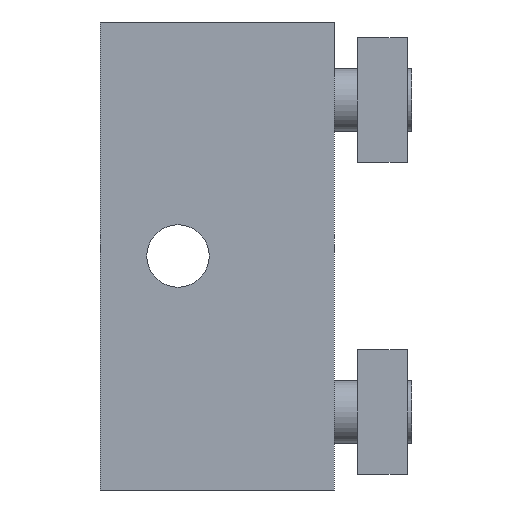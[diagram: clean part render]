
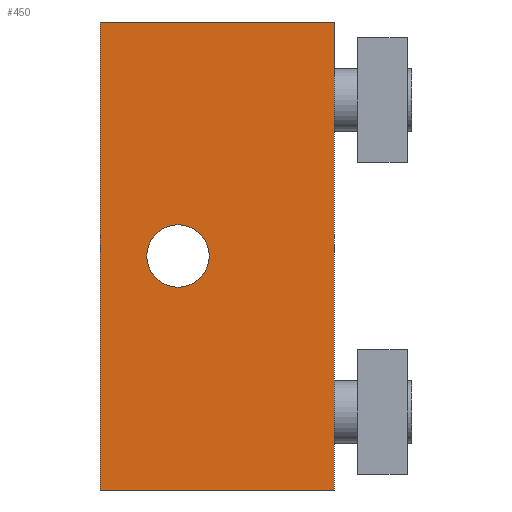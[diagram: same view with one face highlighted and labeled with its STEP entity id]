
A CAD part, left-side view. The second image highlights one B-rep face of the part: STEP entity #450.
In plain terms, the highlighted planar face has unit normal (-1, 0, 0).
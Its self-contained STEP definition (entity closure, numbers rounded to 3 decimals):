
#172=CARTESIAN_POINT('',(0.0,8.,0.0));
#173=VERTEX_POINT('',#172);
#174=CARTESIAN_POINT('',(0.0,10.,0.0));
#175=DIRECTION('',(1.0,0.0,0.0));
#176=DIRECTION('',(0.0,-1.0,0.0));
#177=AXIS2_PLACEMENT_3D('',#174,#175,#176);
#178=CIRCLE('',#177,2.);
#179=EDGE_CURVE('',#173,#173,#178,.T.);
#238=CARTESIAN_POINT('',(0.0,0.0,-15.));
#239=VERTEX_POINT('',#238);
#248=CARTESIAN_POINT('',(0.0,15.,-15.));
#249=VERTEX_POINT('',#248);
#250=CARTESIAN_POINT('',(0.0,15.,-15.));
#251=DIRECTION('',(0.0,-1.0,0.0));
#252=VECTOR('',#251,15.);
#253=LINE('',#250,#252);
#254=EDGE_CURVE('',#249,#239,#253,.T.);
#294=CARTESIAN_POINT('',(0.0,15.,15.));
#295=VERTEX_POINT('',#294);
#311=CARTESIAN_POINT('',(0.0,15.,15.));
#312=DIRECTION('',(0.0,0.0,-1.0));
#313=VECTOR('',#312,30.);
#314=LINE('',#311,#313);
#315=EDGE_CURVE('',#295,#249,#314,.T.);
#406=CARTESIAN_POINT('',(0.0,0.0,15.));
#407=VERTEX_POINT('',#406);
#414=CARTESIAN_POINT('',(0.0,0.0,-15.));
#415=DIRECTION('',(0.0,0.0,1.0));
#416=VECTOR('',#415,30.);
#417=LINE('',#414,#416);
#418=EDGE_CURVE('',#239,#407,#417,.T.);
#431=CARTESIAN_POINT('',(0.0,0.0,0.0));
#432=DIRECTION('',(-1.0,0.0,0.0));
#433=DIRECTION('',(0.0,0.0,1.0));
#434=AXIS2_PLACEMENT_3D('',#431,#432,#433);
#435=PLANE('',#434);
#436=CARTESIAN_POINT('',(0.0,0.0,15.));
#437=DIRECTION('',(0.0,1.0,0.0));
#438=VECTOR('',#437,15.);
#439=LINE('',#436,#438);
#440=EDGE_CURVE('',#407,#295,#439,.T.);
#441=ORIENTED_EDGE('',*,*,#440,.T.);
#442=ORIENTED_EDGE('',*,*,#315,.T.);
#443=ORIENTED_EDGE('',*,*,#254,.T.);
#444=ORIENTED_EDGE('',*,*,#418,.T.);
#445=EDGE_LOOP('',(#441,#442,#443,#444));
#446=FACE_OUTER_BOUND('',#445,.T.);
#447=ORIENTED_EDGE('',*,*,#179,.T.);
#448=EDGE_LOOP('',(#447));
#449=FACE_BOUND('',#448,.T.);
#450=ADVANCED_FACE('',(#446,#449),#435,.T.);
